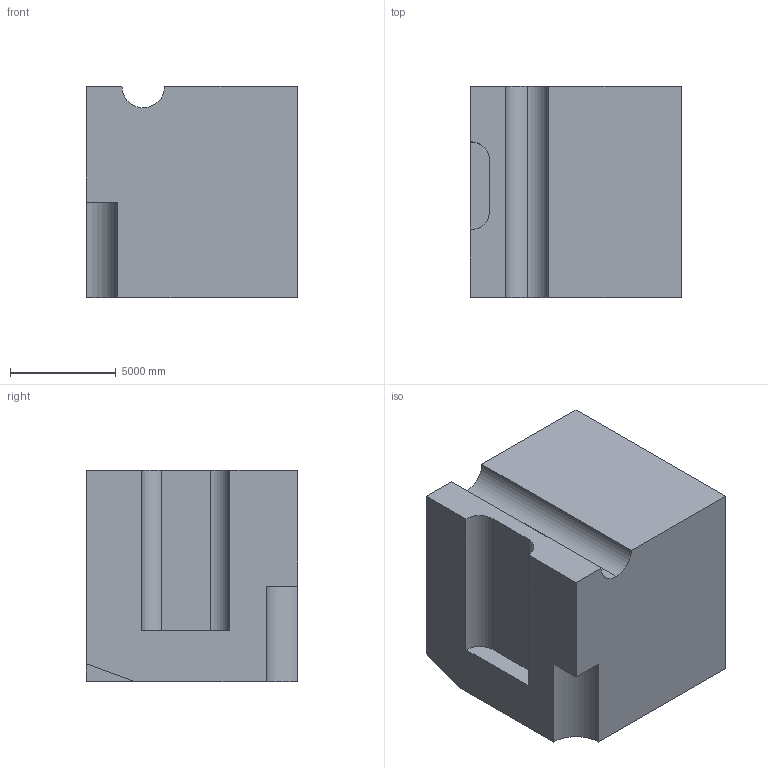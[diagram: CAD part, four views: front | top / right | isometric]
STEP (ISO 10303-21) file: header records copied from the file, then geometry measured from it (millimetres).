
FILE_DESCRIPTION (( 'STEP AP203' ), '1' );
FILE_NAME ('45.STEP', '2022-09-02T13:49:29', ( 'user' ), ( '' ), 'SwSTEP 2.0', 'SolidWorks 2021', '' );
FILE_SCHEMA (( 'CONFIG_CONTROL_DESIGN' ));
Length unit declared in the file: centimetre
Products named in the file (1): 45
Bounding box: 10000 x 10000 x 10000 mm (x, y, z)
Volume: 923010371758.8 mm3; surface area: 674651081.6 mm2
Topology: 1 solids, 1 shells, 22 faces, 57 edges, 38 vertices
Faces by surface type: plane 17, cylinder 5
Entity records: 748 total; most frequent: CARTESIAN_POINT 118, ORIENTED_EDGE 114, DIRECTION 113, EDGE_CURVE 57, VECTOR 47, LINE 47, VERTEX_POINT 38, AXIS2_PLACEMENT_3D 33
